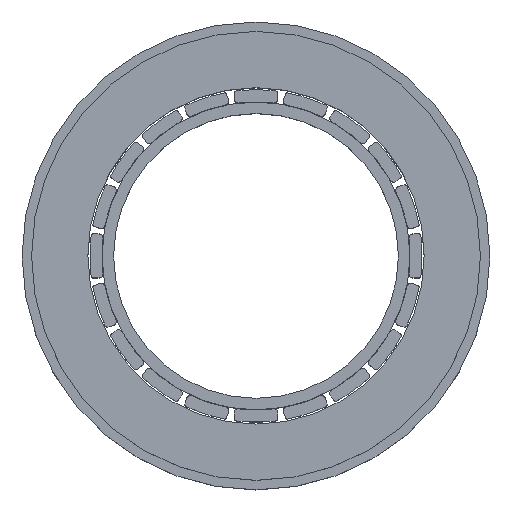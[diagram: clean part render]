
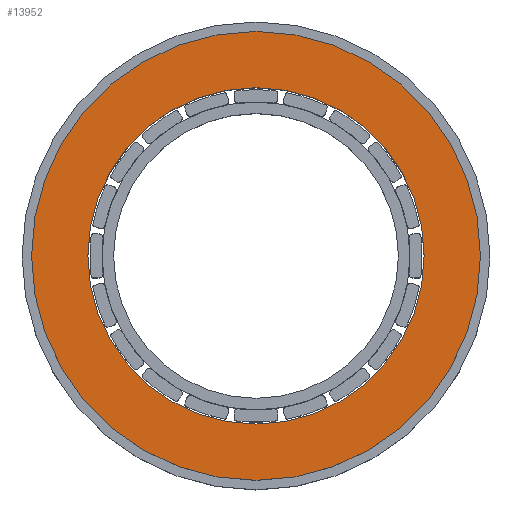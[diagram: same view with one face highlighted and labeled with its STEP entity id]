
A CAD part, top view. The second image highlights one B-rep face of the part: STEP entity #13952.
In plain terms, the highlighted planar face has unit normal (0, 0, 1).
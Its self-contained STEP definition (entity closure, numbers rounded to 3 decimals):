
#13925=CARTESIAN_POINT('',(-8.869,0.,4.));
#13926=DIRECTION('',(1.,0.,0.));
#13927=DIRECTION('',(0.,0.,1.));
#13928=AXIS2_PLACEMENT_3D('',#13925,#13927,#13926);
#13929=PLANE('',#13928);
#13930=CARTESIAN_POINT('',(33.1,0.,4.));
#13931=VERTEX_POINT('',#13930);
#13932=CARTESIAN_POINT('',(0.,0.,4.));
#13933=DIRECTION('',(1.,0.,-0.));
#13934=DIRECTION('',(0.,0.,1.));
#13935=AXIS2_PLACEMENT_3D('',#13932,#13934,#13933);
#13936=CIRCLE('',#13935,33.1);
#13937=EDGE_CURVE('',#13931,#13931,#13936,.T.);
#13938=ORIENTED_EDGE('',*,*,#13937,.T.);
#13939=EDGE_LOOP('',(#13938));
#13940=FACE_OUTER_BOUND('',#13939,.T.);
#13941=CARTESIAN_POINT('',(24.8,0.,4.));
#13942=VERTEX_POINT('',#13941);
#13943=CARTESIAN_POINT('',(0.,0.,4.));
#13944=DIRECTION('',(1.,0.,-0.));
#13945=DIRECTION('',(0.,0.,-1.));
#13946=AXIS2_PLACEMENT_3D('',#13943,#13945,#13944);
#13947=CIRCLE('',#13946,24.8);
#13948=EDGE_CURVE('',#13942,#13942,#13947,.T.);
#13949=ORIENTED_EDGE('',*,*,#13948,.T.);
#13950=EDGE_LOOP('',(#13949));
#13951=FACE_BOUND('',#13950,.T.);
#13952=ADVANCED_FACE('',(#13940,#13951),#13929,.T.);
